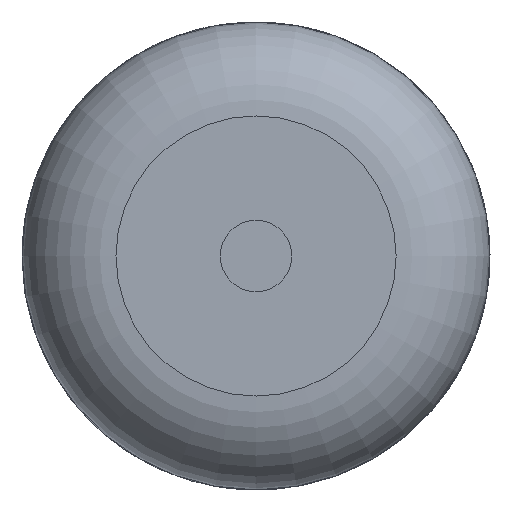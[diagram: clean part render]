
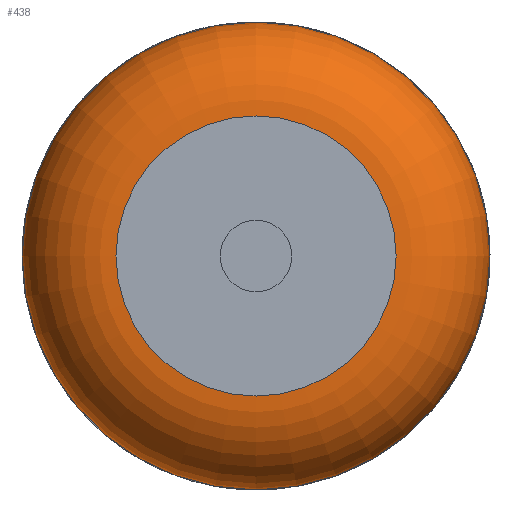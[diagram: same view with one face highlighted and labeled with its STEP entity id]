
A CAD part, left-side view. The second image highlights one B-rep face of the part: STEP entity #438.
In plain terms, the highlighted toroidal (fillet/blend) face has major radius 1.194 mm and minor radius 0.8 mm.
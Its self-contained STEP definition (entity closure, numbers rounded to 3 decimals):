
#12=FACE_BOUND($,#151,.T.);
#26=CIRCLE($,#463,1.194);
#27=CIRCLE($,#464,1.994);
#34=TOROIDAL_SURFACE($,#462,1.194,0.8);
#124=FACE_OUTER_BOUND($,#150,.T.);
#150=EDGE_LOOP($,(#370));
#151=EDGE_LOOP($,(#371));
#226=VERTEX_POINT($,#5912);
#227=VERTEX_POINT($,#5914);
#282=EDGE_CURVE($,#226,#226,#26,.T.);
#283=EDGE_CURVE($,#227,#227,#27,.T.);
#370=ORIENTED_EDGE($,*,*,#282,.T.);
#371=ORIENTED_EDGE($,*,*,#283,.T.);
#438=ADVANCED_FACE($,(#124,#12),#34,.T.);
#462=AXIS2_PLACEMENT_3D($,#5911,#529,#530);
#463=AXIS2_PLACEMENT_3D($,#5913,#531,#532);
#464=AXIS2_PLACEMENT_3D($,#5915,#533,#534);
#529=DIRECTION('center_axis',(1.,0.,0.));
#530=DIRECTION('ref_axis',(0.,0.,-1.));
#531=DIRECTION('center_axis',(1.,0.,0.));
#532=DIRECTION('ref_axis',(0.,-1.,0.));
#533=DIRECTION('center_axis',(-1.,0.,0.));
#534=DIRECTION('ref_axis',(0.,-1.,0.));
#5911=CARTESIAN_POINT('Origin',(-11.95,0.695,0.));
#5912=CARTESIAN_POINT('',(-12.75,1.889,0.));
#5913=CARTESIAN_POINT('Origin',(-12.75,0.695,0.));
#5914=CARTESIAN_POINT('',(-11.95,2.689,0.));
#5915=CARTESIAN_POINT('Origin',(-11.95,0.695,0.));
